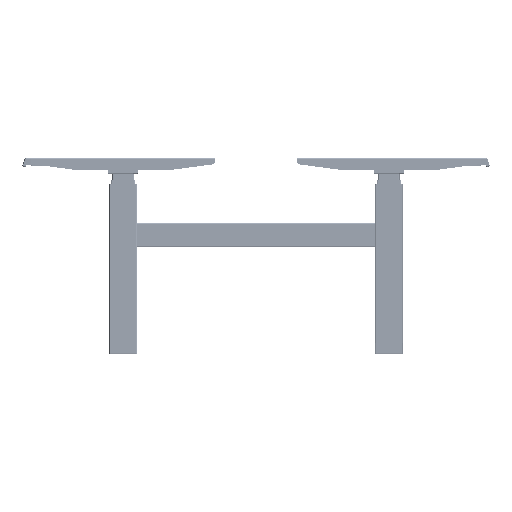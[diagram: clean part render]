
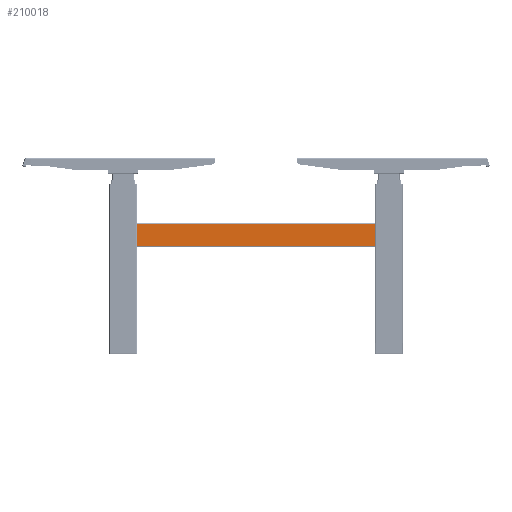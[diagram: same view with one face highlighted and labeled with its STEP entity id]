
A CAD part, left-side view. The second image highlights one B-rep face of the part: STEP entity #210018.
In plain terms, the highlighted planar face has unit normal (-1, 0, 0) as drawn and (0, -1, 0) by its records, which use the part's own axes.
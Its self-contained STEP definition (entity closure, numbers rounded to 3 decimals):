
#208488=DIRECTION('',(0.,0.,1.));
#208489=VECTOR('',#208488,72.);
#208490=CARTESIAN_POINT('',(387.5,-30.,-36.));
#208491=LINE('',#208490,#208489);
#208636=DIRECTION('',(-1.,0.,0.));
#208637=VECTOR('',#208636,775.);
#208638=CARTESIAN_POINT('',(387.5,-30.,36.));
#208639=LINE('',#208638,#208637);
#208640=DIRECTION('',(0.,0.,1.));
#208641=VECTOR('',#208640,72.);
#208642=CARTESIAN_POINT('',(-387.5,-30.,-36.));
#208643=LINE('',#208642,#208641);
#208644=DIRECTION('',(1.,0.,0.));
#208645=VECTOR('',#208644,775.);
#208646=CARTESIAN_POINT('',(-387.5,-30.,-36.));
#208647=LINE('',#208646,#208645);
#209467=CARTESIAN_POINT('',(387.5,-30.,-36.));
#209468=VERTEX_POINT('',#209467);
#209469=CARTESIAN_POINT('',(387.5,-30.,36.));
#209470=VERTEX_POINT('',#209469);
#209529=CARTESIAN_POINT('',(-387.5,-30.,36.));
#209530=VERTEX_POINT('',#209529);
#209531=CARTESIAN_POINT('',(-387.5,-30.,-36.));
#209532=VERTEX_POINT('',#209531);
#210005=CARTESIAN_POINT('',(0.,-30.,-36.));
#210006=DIRECTION('',(0.,1.,0.));
#210007=DIRECTION('',(0.,0.,1.));
#210008=AXIS2_PLACEMENT_3D('',#210005,#210006,#210007);
#210009=PLANE('',#210008);
#210010=ORIENTED_EDGE('',*,*,#209873,.F.);
#210012=ORIENTED_EDGE('',*,*,#210011,.F.);
#210014=ORIENTED_EDGE('',*,*,#210013,.T.);
#210015=ORIENTED_EDGE('',*,*,#209998,.F.);
#210016=EDGE_LOOP('',(#210010,#210012,#210014,#210015));
#210017=FACE_OUTER_BOUND('',#210016,.F.);
#210018=ADVANCED_FACE('',(#210017),#210009,.F.);
#209873=EDGE_CURVE('',#209468,#209470,#208491,.T.);
#209998=EDGE_CURVE('',#209470,#209530,#208639,.T.);
#210011=EDGE_CURVE('',#209532,#209468,#208647,.T.);
#210013=EDGE_CURVE('',#209532,#209530,#208643,.T.);
